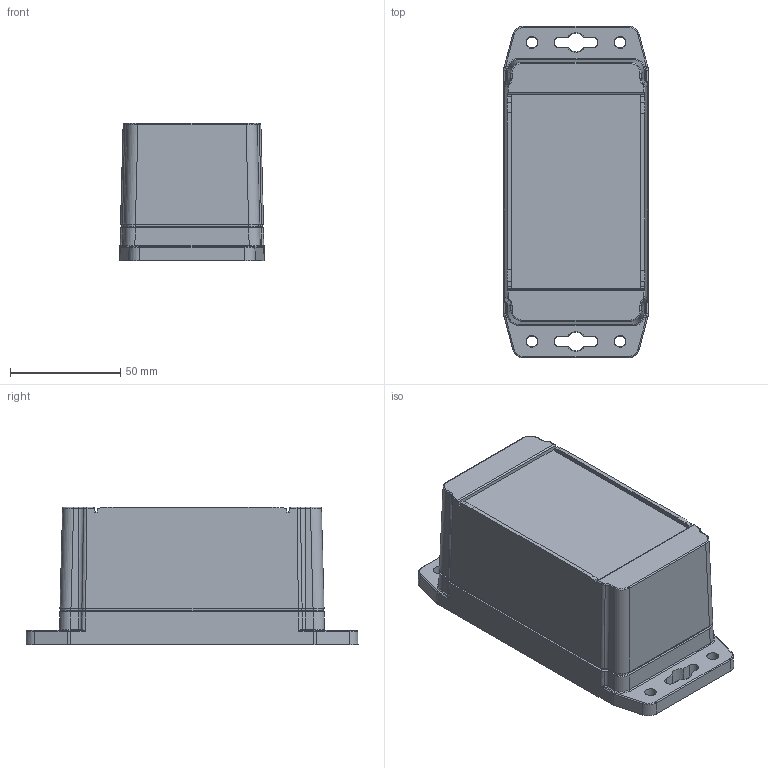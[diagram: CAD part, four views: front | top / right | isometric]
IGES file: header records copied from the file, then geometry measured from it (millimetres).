
Global section: file name: 1555CF42.iam; native system: Autodesk Inventor 2016; preprocessor: unknown; author: tcook; date: 20160106.073852; units: inch
Bounding box: 65.79 x 150.79 x 62.5 mm (x, y, z)
Volume: 142936.4 mm3; surface area: 101674.7 mm2
Topology: 11 solids, 11 shells, 1142 faces, 2925 edges, 1894 vertices
Faces by surface type: plane 560, revolution 234, bspline 180, cylinder 76, cone 76, sphere 16
Full cylindrical faces by diameter (mm): 3.43 x4, 3.88 x4, 5.334 x4, 5.537 x8, 6.35 x8
